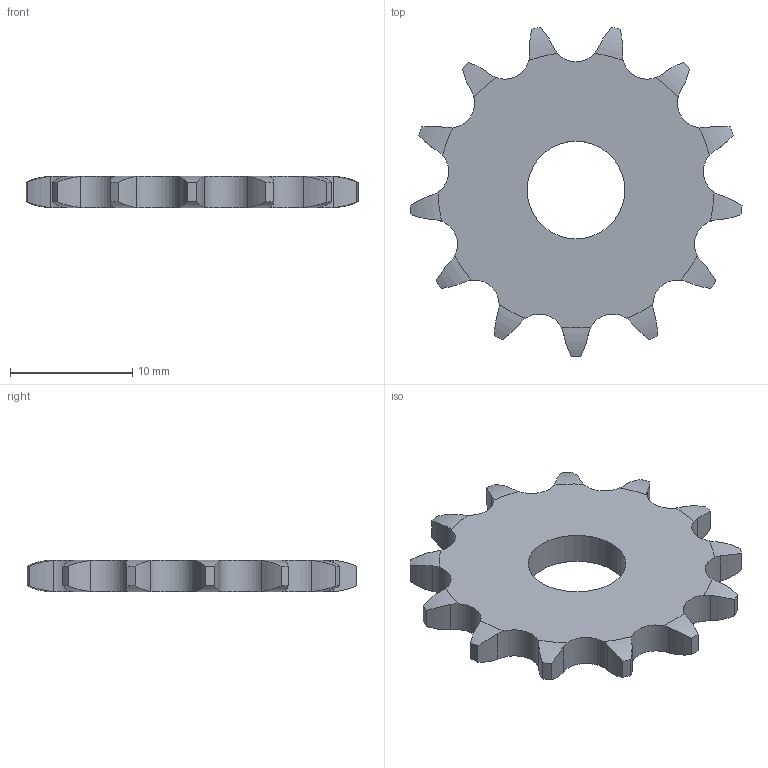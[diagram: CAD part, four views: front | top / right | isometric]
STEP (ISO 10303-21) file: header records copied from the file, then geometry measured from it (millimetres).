
FILE_DESCRIPTION((''),'2;1');
FILE_NAME('500-061-0013_PRT','2021-02-12T',('Brieden'),('Brieden'),'PRO/ENGINEER BY PARAMETRIC TECHNOLOGY CORPORATION, 2010160','PRO/ENGINEER BY PARAMETRIC TECHNOLOGY CORPORATION, 2010160','');
FILE_SCHEMA(('AUTOMOTIVE_DESIGN { 1 0 10303 214 1 1 1 1 }'));
Length unit declared in the file: millimetre
Products named in the file (1): 500-061-0013_PRT
Bounding box: 27.18 x 26.99 x 2.6 mm (x, y, z)
Volume: 975.7 mm3; surface area: 1110.5 mm2
Topology: 1 solids, 1 shells, 82 faces, 240 edges, 160 vertices
Faces by surface type: cylinder 54, torus 26, plane 2
Entity records: 3954 total; most frequent: CARTESIAN_POINT 1107, ORIENTED_EDGE 480, DIRECTION 382, PRESENTATION_STYLE_ASSIGNMENT 241, STYLED_ITEM 241, CURVE_STYLE 240, EDGE_CURVE 240, AXIS2_PLACEMENT_3D 164
